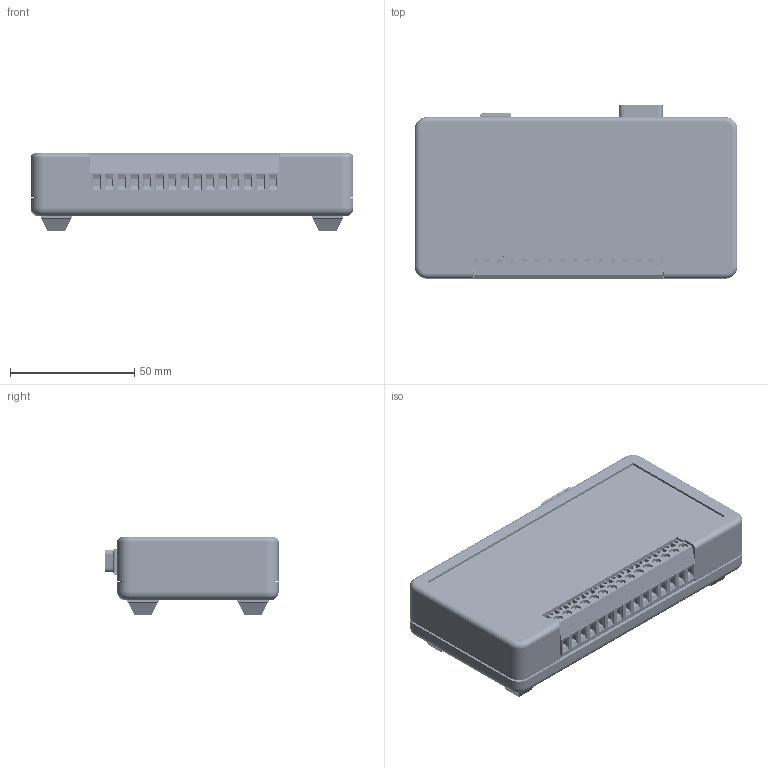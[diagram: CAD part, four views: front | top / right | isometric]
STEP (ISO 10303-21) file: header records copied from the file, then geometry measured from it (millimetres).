
FILE_DESCRIPTION (( 'STEP AP214' ), '1' );
FILE_NAME ('ADU Serial, Dest Top.STEP', '2018-09-24T19:25:25', ( '' ), ( '' ), 'SwSTEP 2.0', 'SolidWorks 2014', '' );
FILE_SCHEMA (( 'AUTOMOTIVE_DESIGN' ));
Length unit declared in the file: millimetre
Products named in the file (11): SJ5018; 91420A127_METRIC FLAT HEAD PHILLIPS MACHINE SCREW_91420A127; 94510A240_BRASS SCREW-TO-EXPAND INSERTS FOR PLASTICS_94510A240; ADU Top; USB; 182-009-113; Wieland_25.163.0353.0_CAD STEP data; 90380A106_PHILLIPS THREAD-FORMING SCREW FOR PLASTIC_90380A106; PCB; ADU Base; ADU Serial, Dest Top
Assembly tree (26 placements, depth 2):
  ADU Serial, Dest Top
    ADU Base
    PCB
    90380A106_PHILLIPS THREAD-FORMING SCREW FOR PLASTIC_90380A106  x4
    Wieland_25.163.0353.0_CAD STEP data  x5
    182-009-113
    USB
    ADU Top
    94510A240_BRASS SCREW-TO-EXPAND INSERTS FOR PLASTICS_94510A240  x4
    91420A127_METRIC FLAT HEAD PHILLIPS MACHINE SCREW_91420A127  x4
    SJ5018  x4
Bounding box: 130 x 70.35 x 31.3 mm (x, y, z)
Volume: 83159.6 mm3; surface area: 80452.9 mm2
Topology: 25 solids, 26 shells, 7117 faces, 16968 edges, 9981 vertices
Faces by surface type: bspline 3194, cylinder 1853, plane 1740, cone 274, torus 32, sphere 24
Entity records: 138152 total; most frequent: CARTESIAN_POINT 77872, ORIENTED_EDGE 13342, DIRECTION 8524, EDGE_CURVE 6675, VERTEX_POINT 4044, VECTOR 3200, LINE 3200, EDGE_LOOP 2837
